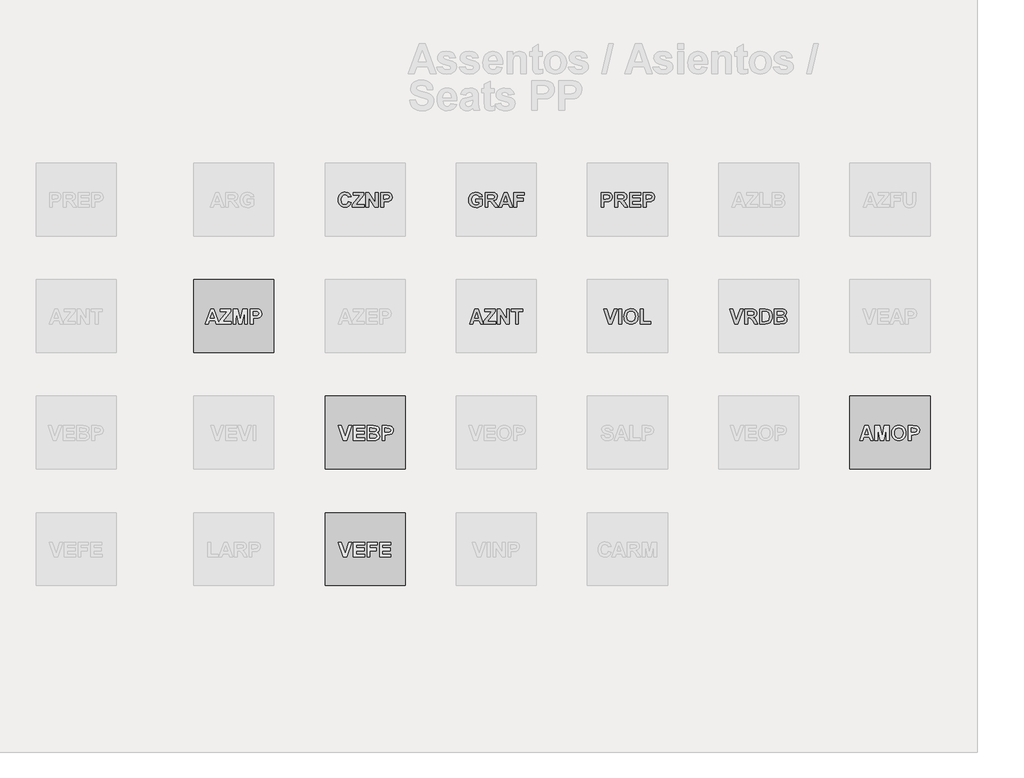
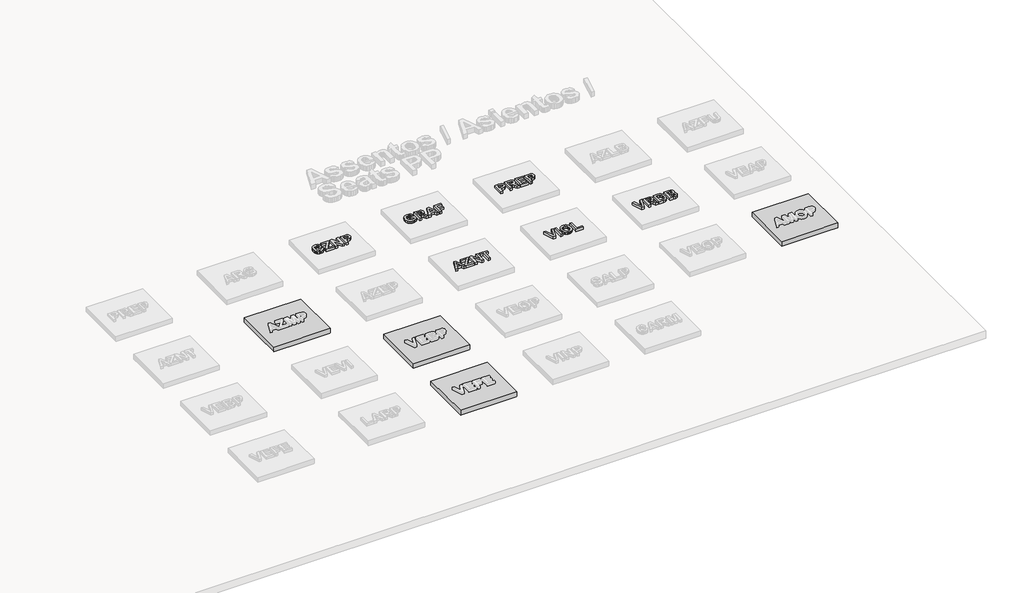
# One storey, part 9 of 11: 10 proxies.
"""IFC4 building model written with IfcOpenShell, lengths in millimetres."""

from ifc_helpers import new_model, si_unit, frame, origin, place, context, project, spatial, polyline, outline, extrude, transform, mapped, element, save
from components import generic_models_36_generic_models_1_0abcf455, generic_models_37_generic_models_1_eac99d5e, generic_models_38_generic_models_1_a86b967c, generic_models_40_generic_models_1_f40014b8

model = new_model("IFC4")

# Units and contexts
model_context = context("Model", 3, world=origin())
ifc_project = project(units=[si_unit("LENGTHUNIT", "METRE", prefix="MILLI")], contexts=[model_context])

# Site, building, storey
site = spatial("IfcSite", under=ifc_project)
building = spatial("IfcBuilding", under=site)
storey = spatial("IfcBuildingStorey", under=building, Name="Biblioteca BIM Revit Metadil - Refeitório", Elevation=0.0)

# Proxies
placement = place(None, origin())
element("IfcBuildingElementProxy", 1, Name="Arial 200mm", ObjectType="Arial 200mm", at=placement, inside=storey, context=model_context, shape_type="SweptSolid", body=[
    extrude(outline(polyline([(4855.5614553, 2026.3873716), (4894.42848, 2013.4316967), (4882.1686666, 1984.8064872), (4863.8105764, 1964.6201793), (4839.5186859, 1952.6450364), (4809.4574715, 1948.6533221), (4789.995492, 1950.3581826), (4772.3490784, 1955.4727643), (4756.5182305, 1963.997067), (4742.5029484, 1975.9310908), (4731.0338865, 1990.8225257), (4722.8416995, 2008.2190619), (4717.9263873, 2028.1206992), (4716.2879499, 2050.5274378), (4717.9406208, 2074.1550969), (4722.8986336, 2094.9866581), (4731.1619883, 2113.0221216), (4742.7306848, 2128.2614873), (4756.994263, 2140.3726394), (4773.3422624, 2149.0234624), (4791.7746832, 2154.2139562), (4812.2915254, 2155.9441208), (4846.4013882, 2150.2380569), (4860.7993942, 2143.1054771), (4873.4261164, 2133.1198654), (4885.6859299, 2116.7101873), (4894.42848, 2094.4046649), (4855.5614553, 2087.9268275), (4849.6086769, 2101.3696054), (4839.4427738, 2111.6367247), (4825.8481715, 2118.1461923), (4809.6092958, 2120.3160148), (4787.6517042, 2116.3749086), (4770.261494, 2104.55159), (4758.9316045, 2083.9098091), (4755.1549746, 2053.513316), (4758.8177363, 2021.4530813), (4769.8060211, 2000.1723731), (4786.6648461, 1988.2541644), (4807.9392283, 1984.2814281), (4824.0009757, 1986.8181594), (4837.6714901, 1994.4283532), (4848.3814304, 2007.4915703), (4855.5614553, 2026.3873716)])), frame((0.0, 0.0, 100.0), z_axis=(0.0, 0.0, 1.0), x_axis=(1.0, 0.0, 0.0)), (0.0, 0.0, 1.0), 50.0),
    extrude(outline(polyline([(4910.6230737, 1948.6533221), (4910.6230737, 1987.5203468), (5019.9871889, 2117.077096), (4923.5787486, 2117.077096), (4923.5787486, 2152.7052021), (5069.3300915, 2152.7052021), (5069.3300915, 2117.077096), (4957.2331385, 1984.2814281), (5072.5690102, 1984.2814281), (5072.5690102, 1948.6533221), (4910.6230737, 1948.6533221)])), frame((0.0, 0.0, 100.0), z_axis=(0.0, 0.0, 1.0), x_axis=(1.0, 0.0, 0.0)), (0.0, 0.0, 1.0), 50.0),
    extrude(outline(polyline([(5098.48036, 1948.6533221), (5098.48036, 2152.7052021), (5139.2198847, 2152.7052021), (5224.7981905, 2015.3548047), (5224.7981905, 2152.7052021), (5263.6652153, 2152.7052021), (5263.6652153, 1948.6533221), (5221.660488, 1948.6533221), (5137.3473848, 2083.9793953), (5137.3473848, 1948.6533221), (5098.48036, 1948.6533221)])), frame((0.0, 0.0, 100.0), z_axis=(0.0, 0.0, 1.0), x_axis=(1.0, 0.0, 0.0)), (0.0, 0.0, 1.0), 50.0),
    extrude(outline(polyline([(5302.53224, 1948.6533221), (5302.53224, 2152.7052021), (5368.2721686, 2152.7052021), (5417.0077739, 2149.6687158), (5433.0442172, 2142.4254307), (5446.2339546, 2129.8050345), (5455.0587429, 2112.2756521), (5458.0003391, 2090.3054084), (5456.2733375, 2073.1176307), (5451.0923327, 2058.9030792), (5443.2480764, 2047.5415596), (5433.5313202, 2038.9128776), (5411.8963553, 2029.2720336), (5368.6264253, 2026.3873716), (5341.3992648, 2026.3873716), (5341.3992648, 1948.6533221), (5302.53224, 1948.6533221)]), holes=[polyline([(5341.3992648, 2117.077096), (5341.3992648, 2062.0154776), (5365.5393309, 2062.0154776), (5400.3830113, 2065.0519639), (5414.1484159, 2074.5915918), (5419.1333143, 2089.6981112), (5417.3810087, 2099.3516072), (5412.1240917, 2107.1579074), (5394.436559, 2115.7612853), (5362.705277, 2117.077096), (5341.3992648, 2117.077096)])]), frame((0.0, 0.0, 100.0), z_axis=(0.0, 0.0, 1.0), x_axis=(1.0, 0.0, 0.0)), (0.0, 0.0, 1.0), 50.0),
])
element("IfcBuildingElementProxy", 2, Name="Arial 200mm", ObjectType="Arial 200mm", at=placement, inside=storey, context=model_context, shape_type="SweptSolid", body=[
    extrude(outline(polyline([(10155.9140962, 348.6533221), (10087.1376813, 552.7052021), (10128.1302465, 552.7052021), (10179.4468651, 400.4760218), (10230.9153081, 552.7052021), (10271.7560489, 552.7052021), (10199.3358504, 348.6533221), (10155.9140962, 348.6533221)])), frame((0.0, 0.0, 100.0), z_axis=(0.0, 0.0, 1.0), x_axis=(1.0, 0.0, 0.0)), (0.0, 0.0, 1.0), 50.0),
    extrude(outline(polyline([(10294.42848, 348.6533221), (10294.42848, 552.7052021), (10380.2598264, 552.7052021), (10408.2208045, 551.3261312), (10427.3253642, 547.1889186), (10440.5340796, 539.5217907), (10450.807525, 527.5529738), (10457.4118827, 512.4084983), (10459.6133353, 495.2143946), (10456.4313507, 474.1487708), (10446.8853968, 457.1064914), (10431.0007778, 444.85933), (10408.8027977, 438.1790601), (10429.1978641, 421.1747368), (10450.8581331, 388.2288603), (10475.8079289, 348.6533221), (10430.4124586, 348.6533221), (10400.8573252, 395.2633869), (10377.653509, 422.9207164), (10364.3941854, 430.7396686), (10342.2025313, 432.8652091), (10333.2955048, 432.8652091), (10333.2955048, 348.6533221), (10294.42848, 348.6533221)]), holes=[polyline([(10333.2955048, 468.4933151), (10365.3304354, 468.4933151), (10404.2227642, 470.846592), (10416.3687094, 478.9438888), (10420.7463105, 493.2912866), (10419.3039795, 502.0275108), (10414.9769865, 508.9038871), (10398.6811767, 516.4191907), (10367.101719, 517.077096), (10333.2955048, 517.077096), (10333.2955048, 468.4933151)])]), frame((0.0, 0.0, 100.0), z_axis=(0.0, 0.0, 1.0), x_axis=(1.0, 0.0, 0.0)), (0.0, 0.0, 1.0), 50.0),
    extrude(outline(polyline([(10498.48036, 552.7052021), (10574.038261, 552.7052021), (10613.006502, 548.808378), (10629.7324807, 541.4512247), (10643.8774461, 530.0074669), (10655.1946837, 515.0021637), (10663.4374788, 496.9603742), (10668.4666592, 475.1166509), (10670.1430527, 448.705546), (10668.5742015, 425.2739933), (10663.8676477, 405.2837918), (10654.5304523, 385.1417659), (10641.90373, 369.2508209), (10629.2770078, 359.9642336), (10612.8546777, 352.955011), (10576.2650176, 348.6533221), (10498.48036, 348.6533221), (10498.48036, 552.7052021)]), holes=[polyline([(10537.3473848, 517.077096), (10537.3473848, 384.2814281), (10570.4450856, 384.2814281), (10597.2673813, 386.2045361), (10615.1573465, 394.5295694), (10626.7719066, 413.8871696), (10631.276028, 450.628654), (10626.7719066, 486.3073681), (10614.1957925, 505.7408805), (10593.6742058, 515.153988), (10557.2869782, 517.077096), (10537.3473848, 517.077096)])]), frame((0.0, 0.0, 100.0), z_axis=(0.0, 0.0, 1.0), x_axis=(1.0, 0.0, 0.0)), (0.0, 0.0, 1.0), 50.0),
    extrude(outline(polyline([(10702.53224, 552.7052021), (10786.288654, 552.7052021), (10823.3590911, 550.6808779), (10845.2217925, 542.2040203), (10861.2898659, 525.0478726), (10866.1102879, 513.692679), (10867.7170952, 501.0343267), (10865.8003133, 487.2436181), (10860.0499673, 474.6168958), (10851.0100945, 464.0777579), (10839.224732, 456.5498023), (10854.128819, 449.2369311), (10865.1360819, 438.128452), (10871.93022, 423.9708346), (10874.1949327, 407.5105484), (10872.5691473, 393.840034), (10867.6917912, 380.5617324), (10859.9993592, 368.7953479), (10849.9283463, 359.660585), (10837.3585582, 353.3408978), (10822.1698006, 350.0197409), (10772.2702089, 348.6533221), (10702.53224, 348.6533221), (10702.53224, 552.7052021)]), holes=[polyline([(10741.3992648, 436.1041278), (10741.3992648, 384.2814281), (10782.4930462, 384.2814281), (10812.9591255, 385.4960226), (10829.103111, 393.2137587), (10833.7717087, 400.4064356), (10835.3279079, 409.6866969), (10830.520138, 424.4642636), (10816.6535171, 433.320682), (10777.2804113, 436.1041278), (10741.3992648, 436.1041278)]), polyline([(10741.3992648, 517.077096), (10741.3992648, 471.7322338), (10771.0556144, 471.7322338), (10803.9508827, 472.3901392), (10822.1951047, 479.4246658), (10827.186329, 486.1681958), (10828.8500705, 494.7589217), (10827.4140655, 502.9764127), (10823.1060505, 509.5111843), (10806.0764232, 516.4191907), (10767.4118308, 517.077096), (10741.3992648, 517.077096)])]), frame((0.0, 0.0, 100.0), z_axis=(0.0, 0.0, 1.0), x_axis=(1.0, 0.0, 0.0)), (0.0, 0.0, 1.0), 50.0),
])
element("IfcBuildingElementProxy", 3, Name="Arial 200mm", ObjectType="Arial 200mm", at=placement, inside=storey, context=model_context, shape_type="SweptSolid", body=[
    extrude(outline(polyline([(6606.9776743, 2023.1484529), (6606.9776743, 2058.7765589), (6694.42848, 2058.7765589), (6694.42848, 1977.3987258), (6678.8158796, 1965.461539), (6657.4845633, 1955.0552474), (6633.1420647, 1947.8246144), (6608.4959175, 1945.4144034), (6579.0293482, 1948.7671903), (6553.5861234, 1958.8255512), (6533.0645367, 1975.1150351), (6518.3628822, 1997.1611909), (6509.5191158, 2023.1800829), (6506.5711937, 2051.3877755), (6509.9050026, 2081.4047079), (6519.9064294, 2107.891725), (6536.3350855, 2129.7354483), (6558.9505825, 2145.8224998), (6580.9398042, 2153.4137155), (6607.7367959, 2155.9441208), (6641.4987281, 2151.8575163), (6666.973583, 2139.5977028), (6684.5029654, 2120.1262344), (6694.42848, 2094.4046649), (6655.5614553, 2087.9268275), (6649.0203577, 2101.3696054), (6638.5065238, 2111.6367247), (6624.4501226, 2118.1461923), (6607.281323, 2120.3160148), (6581.8380981, 2116.077586), (6562.1895013, 2103.3622995), (6549.6260392, 2082.2966758), (6545.4382185, 2053.0072349), (6549.6007351, 2021.5226675), (6562.088285, 1999.0336908), (6581.332017, 1985.5403047), (6605.7630798, 1981.0425094), (6632.5094634, 1985.9767996), (6655.5614553, 1997.9456165), (6655.5614553, 2023.1484529), (6606.9776743, 2023.1484529)])), frame((0.0, 0.0, 100.0), z_axis=(0.0, 0.0, 1.0), x_axis=(1.0, 0.0, 0.0)), (0.0, 0.0, 1.0), 50.0),
    extrude(outline(polyline([(6733.2955048, 1948.6533221), (6733.2955048, 2152.7052021), (6819.1268511, 2152.7052021), (6847.0878292, 2151.3261312), (6866.1923889, 2147.1889186), (6879.4011044, 2139.5217907), (6889.6745497, 2127.5529738), (6896.2789074, 2112.4084983), (6898.48036, 2095.2143946), (6895.2983754, 2074.1487708), (6885.7524216, 2057.1064914), (6869.8678026, 2044.85933), (6847.6698224, 2038.1790601), (6868.0648888, 2021.1747368), (6889.7251578, 1988.2288603), (6914.6749537, 1948.6533221), (6869.2794833, 1948.6533221), (6839.7243499, 1995.2633869), (6816.5205337, 2022.9207164), (6803.2612102, 2030.7396686), (6781.0695561, 2032.8652091), (6772.1625296, 2032.8652091), (6772.1625296, 1948.6533221), (6733.2955048, 1948.6533221)]), holes=[polyline([(6772.1625296, 2068.4933151), (6804.1974601, 2068.4933151), (6843.0897889, 2070.846592), (6855.2357342, 2078.9438888), (6859.6133353, 2093.2912866), (6858.1710043, 2102.0275108), (6853.8440113, 2108.9038871), (6837.5482014, 2116.4191907), (6805.9687438, 2117.077096), (6772.1625296, 2117.077096), (6772.1625296, 2068.4933151)])]), frame((0.0, 0.0, 100.0), z_axis=(0.0, 0.0, 1.0), x_axis=(1.0, 0.0, 0.0)), (0.0, 0.0, 1.0), 50.0),
    extrude(outline(polyline([(7109.0100775, 1948.6533221), (7068.1693366, 1948.6533221), (7052.1771754, 1993.9981843), (6975.1010312, 1993.9981843), (6959.3113024, 1948.6533221), (6917.9138724, 1948.6533221), (6992.4090032, 2152.7052021), (7033.8064332, 2152.7052021), (7109.0100775, 1948.6533221)]), holes=[polyline([(7039.7275815, 2029.6262903), (7013.4619749, 2104.1214211), (6987.5506251, 2029.6262903), (7039.7275815, 2029.6262903)])]), frame((0.0, 0.0, 100.0), z_axis=(0.0, 0.0, 1.0), x_axis=(1.0, 0.0, 0.0)), (0.0, 0.0, 1.0), 50.0),
    extrude(outline(polyline([(7128.4435899, 1948.6533221), (7128.4435899, 2152.7052021), (7267.7170952, 2152.7052021), (7267.7170952, 2117.077096), (7167.3106146, 2117.077096), (7167.3106146, 2071.7322338), (7254.7614203, 2071.7322338), (7254.7614203, 2036.1041278), (7167.3106146, 2036.1041278), (7167.3106146, 1948.6533221), (7128.4435899, 1948.6533221)])), frame((0.0, 0.0, 100.0), z_axis=(0.0, 0.0, 1.0), x_axis=(1.0, 0.0, 0.0)), (0.0, 0.0, 1.0), 50.0),
])
element("IfcBuildingElementProxy", 4, Name="Arial 200mm", ObjectType="Arial 200mm", at=placement, inside=storey, context=model_context, shape_type="SweptSolid", body=[
    extrude(outline(polyline([(8322.7657873, 1948.6533221), (8322.7657873, 2152.7052021), (8388.5057159, 2152.7052021), (8437.2413212, 2149.6687158), (8453.2777645, 2142.4254307), (8466.4675019, 2129.8050345), (8475.2922903, 2112.2756521), (8478.2338864, 2090.3054084), (8476.5068848, 2073.1176307), (8471.32588, 2058.9030792), (8463.4816237, 2047.5415596), (8453.7648675, 2038.9128776), (8432.1299026, 2029.2720336), (8388.8599727, 2026.3873716), (8361.6328121, 2026.3873716), (8361.6328121, 1948.6533221), (8322.7657873, 1948.6533221)]), holes=[polyline([(8361.6328121, 2117.077096), (8361.6328121, 2062.0154776), (8385.7728783, 2062.0154776), (8420.6165587, 2065.0519639), (8434.3819633, 2074.5915918), (8439.3668616, 2089.6981112), (8437.614556, 2099.3516072), (8432.3576391, 2107.1579074), (8414.6701063, 2115.7612853), (8382.9388244, 2117.077096), (8361.6328121, 2117.077096)])]), frame((0.0, 0.0, 100.0), z_axis=(0.0, 0.0, 1.0), x_axis=(1.0, 0.0, 0.0)), (0.0, 0.0, 1.0), 50.0),
    extrude(outline(polyline([(8510.6230737, 1948.6533221), (8510.6230737, 2152.7052021), (8596.45442, 2152.7052021), (8624.4153981, 2151.3261312), (8643.5199578, 2147.1889186), (8656.7286733, 2139.5217907), (8667.0021186, 2127.5529738), (8673.6064763, 2112.4084983), (8675.8079289, 2095.2143946), (8672.6259443, 2074.1487708), (8663.0799905, 2057.1064914), (8647.1953715, 2044.85933), (8624.9973913, 2038.1790601), (8645.3924577, 2021.1747368), (8667.0527267, 1988.2288603), (8692.0025226, 1948.6533221), (8646.6070522, 1948.6533221), (8617.0519188, 1995.2633869), (8593.8481026, 2022.9207164), (8580.5887791, 2030.7396686), (8558.3971249, 2032.8652091), (8549.4900984, 2032.8652091), (8549.4900984, 1948.6533221), (8510.6230737, 1948.6533221)]), holes=[polyline([(8549.4900984, 2068.4933151), (8581.525029, 2068.4933151), (8620.4173578, 2070.846592), (8632.5633031, 2078.9438888), (8636.9409042, 2093.2912866), (8635.4985732, 2102.0275108), (8631.1715802, 2108.9038871), (8614.8757703, 2116.4191907), (8583.2963127, 2117.077096), (8549.4900984, 2117.077096), (8549.4900984, 2068.4933151)])]), frame((0.0, 0.0, 100.0), z_axis=(0.0, 0.0, 1.0), x_axis=(1.0, 0.0, 0.0)), (0.0, 0.0, 1.0), 50.0),
    extrude(outline(polyline([(8714.6749537, 1948.6533221), (8714.6749537, 2152.7052021), (8866.904134, 2152.7052021), (8866.904134, 2117.077096), (8753.5419784, 2117.077096), (8753.5419784, 2071.7322338), (8860.4262965, 2071.7322338), (8860.4262965, 2036.1041278), (8753.5419784, 2036.1041278), (8753.5419784, 1984.2814281), (8870.1430527, 1984.2814281), (8870.1430527, 1948.6533221), (8714.6749537, 1948.6533221)])), frame((0.0, 0.0, 100.0), z_axis=(0.0, 0.0, 1.0), x_axis=(1.0, 0.0, 0.0)), (0.0, 0.0, 1.0), 50.0),
    extrude(outline(polyline([(8902.53224, 1948.6533221), (8902.53224, 2152.7052021), (8968.2721686, 2152.7052021), (9017.0077739, 2149.6687158), (9033.0442172, 2142.4254307), (9046.2339546, 2129.8050345), (9055.0587429, 2112.2756521), (9058.0003391, 2090.3054084), (9056.2733375, 2073.1176307), (9051.0923327, 2058.9030792), (9043.2480764, 2047.5415596), (9033.5313202, 2038.9128776), (9011.8963553, 2029.2720336), (8968.6264253, 2026.3873716), (8941.3992648, 2026.3873716), (8941.3992648, 1948.6533221), (8902.53224, 1948.6533221)]), holes=[polyline([(8941.3992648, 2117.077096), (8941.3992648, 2062.0154776), (8965.5393309, 2062.0154776), (9000.3830113, 2065.0519639), (9014.1484159, 2074.5915918), (9019.1333143, 2089.6981112), (9017.3810087, 2099.3516072), (9012.1240917, 2107.1579074), (8994.436559, 2115.7612853), (8962.705277, 2117.077096), (8941.3992648, 2117.077096)])]), frame((0.0, 0.0, 100.0), z_axis=(0.0, 0.0, 1.0), x_axis=(1.0, 0.0, 0.0)), (0.0, 0.0, 1.0), 50.0),
])
element("IfcBuildingElementProxy", 5, Name="Arial 200mm", ObjectType="Arial 200mm", at=placement, inside=storey, context=model_context, shape_type="SweptSolid", body=[
    extrude(outline(polyline([(6710.6230737, 348.6533221), (6669.7823328, 348.6533221), (6653.7901716, 393.9981843), (6576.7140274, 393.9981843), (6560.9242986, 348.6533221), (6519.5268686, 348.6533221), (6594.0219994, 552.7052021), (6635.4194294, 552.7052021), (6710.6230737, 348.6533221)]), holes=[polyline([(6641.3405777, 429.6262903), (6615.0749711, 504.1214211), (6589.1636213, 429.6262903), (6641.3405777, 429.6262903)])]), frame((0.0, 0.0, 100.0), z_axis=(0.0, 0.0, 1.0), x_axis=(1.0, 0.0, 0.0)), (0.0, 0.0, 1.0), 50.0),
    extrude(outline(polyline([(6713.8619924, 348.6533221), (6713.8619924, 387.5203468), (6823.2261077, 517.077096), (6726.8176673, 517.077096), (6726.8176673, 552.7052021), (6872.5690102, 552.7052021), (6872.5690102, 517.077096), (6760.4720573, 384.2814281), (6875.8079289, 384.2814281), (6875.8079289, 348.6533221), (6713.8619924, 348.6533221)])), frame((0.0, 0.0, 100.0), z_axis=(0.0, 0.0, 1.0), x_axis=(1.0, 0.0, 0.0)), (0.0, 0.0, 1.0), 50.0),
    extrude(outline(polyline([(6901.7192788, 348.6533221), (6901.7192788, 552.7052021), (6942.4588034, 552.7052021), (7028.0371092, 415.3548047), (7028.0371092, 552.7052021), (7066.904134, 552.7052021), (7066.904134, 348.6533221), (7024.8994067, 348.6533221), (6940.5863035, 483.9793953), (6940.5863035, 348.6533221), (6901.7192788, 348.6533221)])), frame((0.0, 0.0, 100.0), z_axis=(0.0, 0.0, 1.0), x_axis=(1.0, 0.0, 0.0)), (0.0, 0.0, 1.0), 50.0),
    extrude(outline(polyline([(7151.116021, 348.6533221), (7151.116021, 517.077096), (7092.8154838, 517.077096), (7092.8154838, 552.7052021), (7248.2835829, 552.7052021), (7248.2835829, 517.077096), (7189.9830457, 517.077096), (7189.9830457, 348.6533221), (7151.116021, 348.6533221)])), frame((0.0, 0.0, 100.0), z_axis=(0.0, 0.0, 1.0), x_axis=(1.0, 0.0, 0.0)), (0.0, 0.0, 1.0), 50.0),
])
element("IfcBuildingElementProxy", 6, Name="Arial 200mm", ObjectType="Arial 200mm", at=placement, inside=storey, context=model_context, shape_type="SweptSolid", body=[
    extrude(outline(polyline([(8427.1703083, 348.6533221), (8358.3938934, 552.7052021), (8399.3864585, 552.7052021), (8450.7030772, 400.4760218), (8502.1715201, 552.7052021), (8543.012261, 552.7052021), (8470.5920625, 348.6533221), (8427.1703083, 348.6533221)])), frame((0.0, 0.0, 100.0), z_axis=(0.0, 0.0, 1.0), x_axis=(1.0, 0.0, 0.0)), (0.0, 0.0, 1.0), 50.0),
    extrude(outline(polyline([(8565.6846921, 348.6533221), (8565.6846921, 552.7052021), (8604.5517169, 552.7052021), (8604.5517169, 348.6533221), (8565.6846921, 348.6533221)])), frame((0.0, 0.0, 100.0), z_axis=(0.0, 0.0, 1.0), x_axis=(1.0, 0.0, 0.0)), (0.0, 0.0, 1.0), 50.0),
    extrude(outline(polyline([(8636.9409042, 449.4140594), (8639.2309209, 478.0329429), (8646.1009712, 501.641624), (8664.7500579, 529.551994), (8677.1300657, 540.3251943), (8690.6361037, 547.8974321), (8710.8034336, 553.9324486), (8733.8554255, 555.9441208), (8754.8894192, 554.1997227), (8773.7093083, 548.9665283), (8790.3150928, 540.2445377), (8804.7067727, 528.0337508), (8816.3308219, 512.7168915), (8824.6337142, 494.6766835), (8829.6154495, 473.9131269), (8831.276028, 450.4262216), (8829.6281015, 427.0990481), (8824.6843223, 406.4604302), (8816.4446901, 388.5103679), (8804.9092052, 373.2488612), (8790.6124155, 361.0712859), (8774.0888691, 352.3730178), (8755.3385662, 347.154057), (8734.3615066, 345.4144034), (8713.1630365, 347.1461495), (8694.2545832, 352.3413877), (8677.6361467, 361.0001182), (8663.3077269, 373.1223409), (8651.772242, 388.2810499), (8643.5326098, 406.0492393), (8638.5888306, 426.4269092), (8636.9409042, 449.4140594)]), holes=[polyline([(8675.8079289, 450.8310864), (8679.9388155, 420.6306996), (8692.3314752, 398.7553462), (8711.0881042, 385.4707186), (8734.3108985, 381.0425094), (8757.4830846, 385.4390885), (8776.0878893, 398.6288259), (8788.3287247, 420.6117216), (8792.4090032, 451.3877755), (8788.4362669, 481.7020305), (8776.5180582, 503.2104752), (8758.0207957, 516.0396299), (8734.3108985, 520.3160148), (8710.5503931, 515.9890218), (8691.9013064, 503.0080428), (8679.8312733, 481.3098177), (8675.8079289, 450.8310864)])]), frame((0.0, 0.0, 100.0), z_axis=(0.0, 0.0, 1.0), x_axis=(1.0, 0.0, 0.0)), (0.0, 0.0, 1.0), 50.0),
    extrude(outline(polyline([(8863.6652153, 348.6533221), (8863.6652153, 552.7052021), (8902.53224, 552.7052021), (8902.53224, 384.2814281), (9006.1776394, 384.2814281), (9006.1776394, 348.6533221), (8863.6652153, 348.6533221)])), frame((0.0, 0.0, 100.0), z_axis=(0.0, 0.0, 1.0), x_axis=(1.0, 0.0, 0.0)), (0.0, 0.0, 1.0), 50.0),
])
generic_models_36_generic_models_1_shape = generic_models_36_generic_models_1_0abcf455(model_context)
element("IfcBuildingElementProxy", 7, Name="Generic Models 36 : Generic Models 1", ObjectType="Generic Models 36 : Generic Models 1", at=placement, inside=storey, context=model_context, shape_type="MappedRepresentation", body=[
    mapped(generic_models_36_generic_models_1_shape, transform((195.9102188, 6103.0756766, 0.0), x_axis=(1.0, 0.0, 0.0), y_axis=(0.0, 1.0, 0.0), z_axis=(0.0, 0.0, 1.0))),
])
generic_models_37_generic_models_1_shape = generic_models_37_generic_models_1_eac99d5e(model_context)
element("IfcBuildingElementProxy", 8, Name="Generic Models 37 : Generic Models 1", ObjectType="Generic Models 37 : Generic Models 1", at=placement, inside=storey, context=model_context, shape_type="MappedRepresentation", body=[
    mapped(generic_models_37_generic_models_1_shape, transform((3699.8061281, 6103.0756766, 0.0), x_axis=(1.0, 0.0, 0.0), y_axis=(0.0, 1.0, 0.0), z_axis=(0.0, 0.0, 1.0))),
])
generic_models_38_generic_models_1_shape = generic_models_38_generic_models_1_a86b967c(model_context)
element("IfcBuildingElementProxy", 9, Name="Generic Models 38 : Generic Models 1", ObjectType="Generic Models 38 : Generic Models 1", at=placement, inside=storey, context=model_context, shape_type="MappedRepresentation", body=[
    mapped(generic_models_38_generic_models_1_shape, transform((1899.8061281, 6103.0756766, 0.0), x_axis=(1.0, 0.0, 0.0), y_axis=(0.0, 1.0, 0.0), z_axis=(0.0, 0.0, 1.0))),
])
generic_models_40_generic_models_1_shape = generic_models_40_generic_models_1_f40014b8(model_context)
element("IfcBuildingElementProxy", 10, Name="Generic Models 40 : Generic Models 1", ObjectType="Generic Models 40 : Generic Models 1", at=placement, inside=storey, context=model_context, shape_type="MappedRepresentation", body=[
    mapped(generic_models_40_generic_models_1_shape, transform((99.8061281, 7703.0756766, 0.0), x_axis=(1.0, 0.0, 0.0), y_axis=(0.0, 1.0, 0.0), z_axis=(0.0, 0.0, 1.0))),
])

save(model, "model.ifc")
